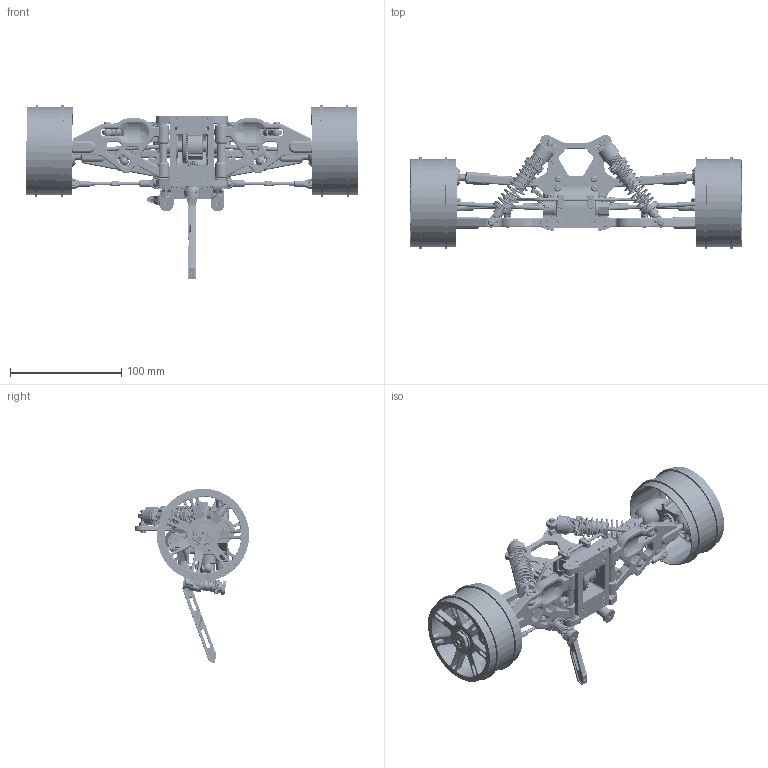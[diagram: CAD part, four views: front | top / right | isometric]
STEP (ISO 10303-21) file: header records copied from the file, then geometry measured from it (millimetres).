
FILE_DESCRIPTION(/* description */ (''),/* implementation_level */ '2;1');
FILE_NAME(/* name */ 'D:\1. 3D\1. Saját\1. RC nitro buggy\XRAY XB8 17\3. Grabcad\STP\RC Buggy_ 2 front suspension.stp',/* time_stamp */ '2017-12-16T18:26:57+01:00',/* author */ ('Nagy Imre'),/* organization */ (''),/* preprocessor_version */ 'ST-DEVELOPER v16.13',/* originating_system */ 'Autodesk Inventor 2018',/* authorisation */ '');
FILE_SCHEMA (('AUTOMOTIVE_DESIGN { 1 0 10303 214 3 1 1 }'));
Products named in the file (112): RC Buggy_ 2  front suspension; Difi ház_F_R; Difi ház_2_2; Difi ház_1; Csapágy _Z14 _  6x13x5; Rugótorony_F; Lengőkar összekötő_ 0°
 _F; Lengőkar tengely_F_A; Part3; Lengőkar összekötő_ 0°
 _F_ F; Lengőkar tengely_F_F; Lengőkar csap betét front 0°_6mm; BS 4168 - M3 x 40; Torziós rúd bilincs; ASME/ANSI B18.3.5M - M3x6(2); Rugótorony_csap; ISO 4035 - M3; Rugótorony támasztó_F; CNS 4558 - M3 x 10; Difi_F_R_1; Difi_F_R; Kúpkerék_Z46; Difi tengely; Difi tengely front_rear_central; Napkerék; Csap 2x8; Bolygókerék tengely; Bolygókerék; CNS 4558 - M3 x 10_1; Csapágy_; Lengőkar_F_A._1; Lenggőkar_F_A_1; Kormány gömb_2; ANSI B18.3.4M - M3 x 0.5 x 16; Capáágyház_F_1; Csapágyház_front; Lengőkar_gömbfej betét; Lengőkar_csavar; Csapágy__1; Lengőkar_F_F._1 ...
Assembly tree (198 placements, depth 4):
  RC Buggy_ 2  front suspension
    Difi ház_F_R
      Difi ház_2_2
      Difi ház_1
      Csapágy _Z14 _  6x13x5  x2
      Rugótorony_F
      ANSI B18.3.4M - M3 x 0.5 x 10  x6
      Lengőkar összekötő_ 0°
 _F  x2
      Lengőkar csap betét front 0°_6mm  x8
      Lengőkar tengely_F_A  x2
      Part3
      Lengőkar összekötő_ 0°
 _F_ F
      Lengőkar tengely_F_F  x2
      BS 4168 - M3 x 40  x2
      CNS 4558 - M3 x 10_1  x2
      CNS 4558 - M3 x 10  x3
      CNS 4558 - M3 x 10_2  x5
      Torziós rúd bilincs  x2
      ASME/ANSI B18.3.5M - M3x6(2)  x2
      BS 4168 - M3 x 4_1  x2
      Rugótorony_csap  x2
      ISO 4035 - M3  x4
      Kormány gömb_2  x2
      Rugótorony támasztó_F
    Difi_F_R_1
      Difi_F_R
      Difi tengely  x2
        Difi tengely front_rear_central
        Napkerék
        Csap 2x8
      Kúpkerék_Z46
      Bolygókerék tengely  x2
      Bolygókerék  x4
      CNS 4558 - M3 x 10_1  x4
      Csapágy_  x2
    Lengőkar_F_A._1  x2
      Lenggőkar_F_A_1
      Lengőkar_gömb
      Kormány gömb_2
      ANSI B18.3.4M - M3 x 0.5 x 16
    Capáágyház_F_1  x2
      Csapágyház_front
      Lengőkar_gömbfej betét
      Lengőkar_csavar
      Csapágy__1
    Lengőkar_F_F._1  x2
      Lenggőkar_F_F_1
      Lengőkar_gömb
    Irányítókar
      Irányítókar_1
      Kormány gömb_1
      ANSI B18.3.4M - M3 x 0.5 x 10
      CNS 4558 - M3 x 10_2  x2
    Irányítókar_MIR
      Irányítókar_MIR_1
      Kormány gömb_1_MIR
      Csavar ANSI B18.3.4M - M3 x 0.5 x 10_MIR
      Csavar CNS 4558 - M3 x 0,5 x5_MIR  x2
    Szervóvédő  tengely  x2
    Szervóvédő_2
Bounding box: 298.07 x 102.83 x 156.74 mm (x, y, z)
Volume: 291366 mm3; surface area: 249926.3 mm2
Topology: 211 solids, 293 shells, 10665 faces, 26768 edges, 16558 vertices
Faces by surface type: plane 3194, cylinder 3064, bspline 1504, cone 1473, torus 1176, sphere 254
Full cylindrical faces by diameter (mm): 1 x2, 1.2 x12, 1.5 x9, 1.567 x1, 2 x20, 2.107 x1, 2.3 x2, 2.459 x42, 2.5 x8, 2.8 x5, 3 x174, 3.2 x8, 3.4 x2, 3.5 x12, 3.8 x2, 4 x50, 4.134 x2, 4.642 x8, 4.917 x4, 5 x32, 5.35 x4, 5.6 x6, 5.7 x16, 6 x153, 6.4 x8, 6.5 x6, 6.959 x4, 7 x14, 7.6 x2, 7.8 x2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
Entity records: 219497 total; most frequent: CARTESIAN_POINT 88600, ORIENTED_EDGE 26438, DIRECTION 26071, EDGE_CURVE 13174, AXIS2_PLACEMENT_3D 10912, VERTEX_POINT 8482, EDGE_LOOP 6843, ADVANCED_FACE 5680
